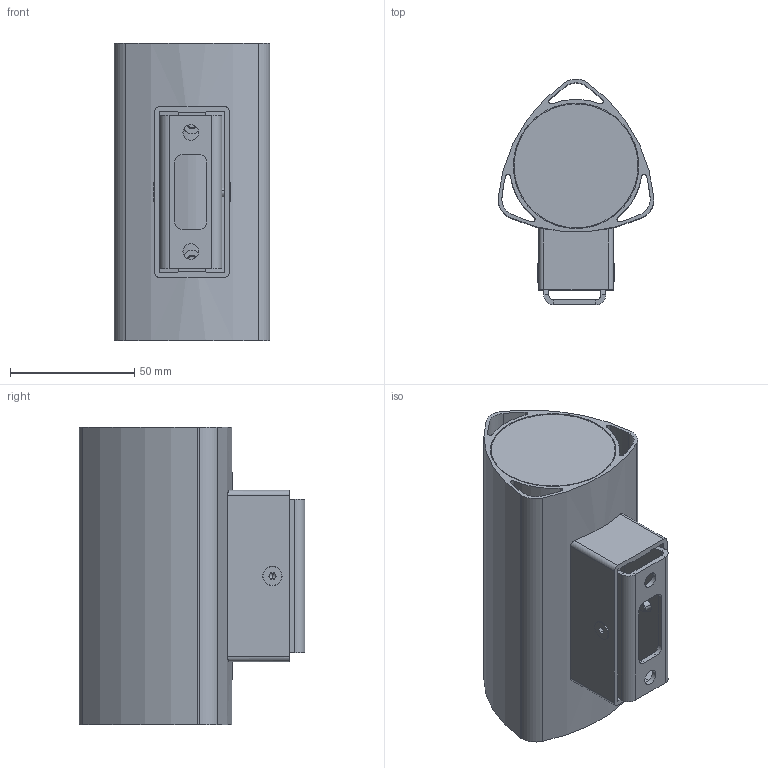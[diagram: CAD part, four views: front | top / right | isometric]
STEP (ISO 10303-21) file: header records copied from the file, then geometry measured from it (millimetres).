
FILE_DESCRIPTION (( 'STEP AP214' ), '1' );
FILE_NAME ('Tetra Duo-2x3.STEP', '2022-07-29T12:39:58', ( '' ), ( '' ), 'SwSTEP 2.0', 'SolidWorks 2020', '' );
FILE_SCHEMA (( 'AUTOMOTIVE_DESIGN' ));
Length unit declared in the file: millimetre
Products named in the file (6): Tetra Duo-2x3; RAD-S-ClS-3.00.00.04 ñòåêëî_RAD-S-ClS-3.00.00.04 ¯à®áâ ¤50¬¬; RAD-S-Te-3.00.00.04 Îïîðà; RAD-S-Te-3.00.00.01 扻豵鵨_TeD-3_120洵; RAD-S-Qu-3.00.00.03 ﾊ煇鳫; socket countersunk head screw_din_DIN 7991 - M4 x 8 --- 5.6N
Assembly tree (7 placements, depth 2):
  Tetra Duo-2x3
    RAD-S-Te-3.00.00.01 扻豵鵨_TeD-3_120洵
    RAD-S-Qu-3.00.00.03 ﾊ煇鳫
    RAD-S-Te-3.00.00.04 Îïîðà
    RAD-S-ClS-3.00.00.04 ñòåêëî_RAD-S-ClS-3.00.00.04 ¯à®áâ ¤50¬¬  x2
    socket countersunk head screw_din_DIN 7991 - M4 x 8 --- 5.6N  x2
Bounding box: 62.74 x 90.84 x 120 mm (x, y, z)
Volume: 315137 mm3; surface area: 76040 mm2
Topology: 7 solids, 7 shells, 194 faces, 470 edges, 294 vertices
Faces by surface type: cylinder 87, plane 79, cone 20, bspline 4, torus 4
Entity records: 5756 total; most frequent: CARTESIAN_POINT 1475, DIRECTION 867, ORIENTED_EDGE 800, EDGE_CURVE 400, AXIS2_PLACEMENT_3D 331, VERTEX_POINT 255, VECTOR 205, LINE 205
